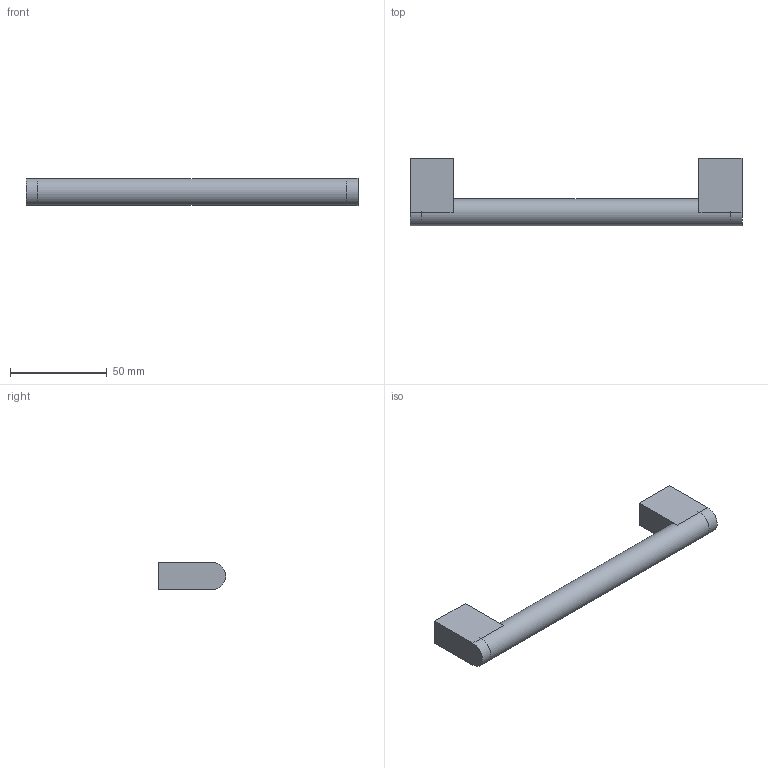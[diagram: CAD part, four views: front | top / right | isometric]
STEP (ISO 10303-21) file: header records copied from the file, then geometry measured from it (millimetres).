
FILE_DESCRIPTION( ( 'STEP AP214' ), ' ' );
FILE_NAME( 'C:/Users/bhog/Desktop/Handle/9069893/9069893.stp', '2018-11-20T10:20:09', ( '' ), ( '' ), ' ', 'PARTsolutions', ' ' );
FILE_SCHEMA( ( 'AUTOMOTIVE_DESIGN { 1 0 10303 214 1 1 1 1 }' ) );
Length unit declared in the file: millimetre
Products named in the file (1): _9069893
Bounding box: 172 x 35 x 14 mm (x, y, z)
Volume: 40206.1 mm3; surface area: 12950.1 mm2
Topology: 1 solids, 1 shells, 21 faces, 41 edges, 26 vertices
Faces by surface type: plane 14, cylinder 7
Full cylindrical faces by diameter (mm): 4 x2, 13.98 x1
Entity records: 706 total; most frequent: DIRECTION 96, CARTESIAN_POINT 86, ORIENTED_EDGE 76, EDGE_CURVE 38, AXIS2_PLACEMENT_3D 36, EDGE_LOOP 28, VERTEX_POINT 26, FACE_OUTER_BOUND 24
